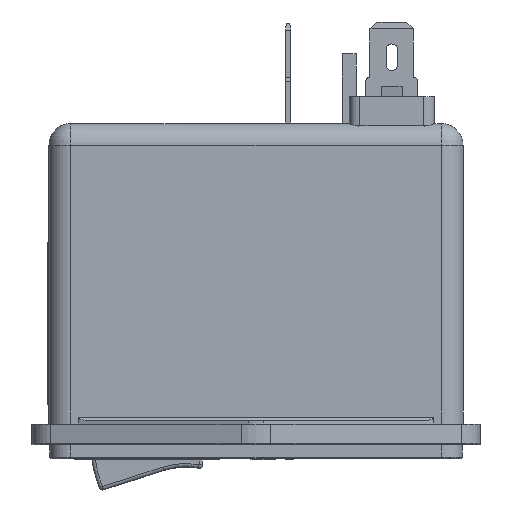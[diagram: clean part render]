
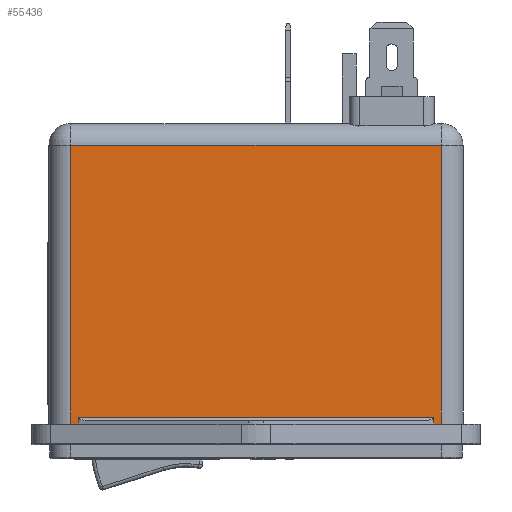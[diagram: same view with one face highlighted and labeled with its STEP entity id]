
A CAD part, left-side view. The second image highlights one B-rep face of the part: STEP entity #55436.
In plain terms, the highlighted planar face has unit normal (-1, 0, 0).
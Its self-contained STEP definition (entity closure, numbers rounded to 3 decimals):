
#54662=CARTESIAN_POINT('',(-14.25,-8.775,24.375));
#54663=VERTEX_POINT('',#54662);
#54671=CARTESIAN_POINT('',(-14.25,-7.655,24.375));
#54672=VERTEX_POINT('',#54671);
#54673=CARTESIAN_POINT('',(-14.25,-8.775,24.375));
#54674=DIRECTION('',(0.0,1.0,0.0));
#54675=VECTOR('',#54674,1.12);
#54676=LINE('',#54673,#54675);
#54677=EDGE_CURVE('',#54663,#54672,#54676,.T.);
#54695=CARTESIAN_POINT('',(-14.25,43.755,24.375));
#54696=VERTEX_POINT('',#54695);
#54703=CARTESIAN_POINT('',(-14.25,44.875,24.375));
#54704=VERTEX_POINT('',#54703);
#54705=CARTESIAN_POINT('',(-14.25,43.755,24.375));
#54706=DIRECTION('',(0.0,1.0,0.0));
#54707=VECTOR('',#54706,1.12);
#54708=LINE('',#54705,#54707);
#54709=EDGE_CURVE('',#54696,#54704,#54708,.T.);
#55142=CARTESIAN_POINT('',(-14.25,43.755,25.375));
#55143=VERTEX_POINT('',#55142);
#55161=CARTESIAN_POINT('',(-14.25,-7.655,25.375));
#55162=VERTEX_POINT('',#55161);
#55170=CARTESIAN_POINT('',(-14.25,-7.655,25.375));
#55171=DIRECTION('',(0.0,1.0,0.0));
#55172=VECTOR('',#55171,51.411);
#55173=LINE('',#55170,#55172);
#55174=EDGE_CURVE('',#55162,#55143,#55173,.T.);
#55336=CARTESIAN_POINT('',(-14.25,-7.655,25.375));
#55337=DIRECTION('',(0.0,0.0,-1.0));
#55338=VECTOR('',#55337,1.0);
#55339=LINE('',#55336,#55338);
#55340=EDGE_CURVE('',#55162,#54672,#55339,.T.);
#55378=CARTESIAN_POINT('',(-14.25,43.755,24.375));
#55379=DIRECTION('',(0.0,0.0,1.0));
#55380=VECTOR('',#55379,1.0);
#55381=LINE('',#55378,#55380);
#55382=EDGE_CURVE('',#54696,#55143,#55381,.T.);
#55402=CARTESIAN_POINT('',(-14.25,-11.925,24.375));
#55403=DIRECTION('',(-1.0,0.0,0.0));
#55404=DIRECTION('',(0.0,0.0,1.0));
#55405=AXIS2_PLACEMENT_3D('',#55402,#55403,#55404);
#55406=PLANE('',#55405);
#55407=ORIENTED_EDGE('',*,*,#55340,.T.);
#55408=ORIENTED_EDGE('',*,*,#54677,.F.);
#55409=CARTESIAN_POINT('',(-14.25,-8.775,64.725));
#55410=VERTEX_POINT('',#55409);
#55411=CARTESIAN_POINT('',(-14.25,-8.775,64.725));
#55412=DIRECTION('',(0.0,0.0,-1.0));
#55413=VECTOR('',#55412,40.35);
#55414=LINE('',#55411,#55413);
#55415=EDGE_CURVE('',#55410,#54663,#55414,.T.);
#55416=ORIENTED_EDGE('',*,*,#55415,.F.);
#55417=CARTESIAN_POINT('',(-14.25,44.875,64.725));
#55418=VERTEX_POINT('',#55417);
#55419=CARTESIAN_POINT('',(-14.25,44.875,64.725));
#55420=DIRECTION('',(0.0,-1.0,0.0));
#55421=VECTOR('',#55420,53.65);
#55422=LINE('',#55419,#55421);
#55423=EDGE_CURVE('',#55418,#55410,#55422,.T.);
#55424=ORIENTED_EDGE('',*,*,#55423,.F.);
#55425=CARTESIAN_POINT('',(-14.25,44.875,24.375));
#55426=DIRECTION('',(0.0,0.0,1.0));
#55427=VECTOR('',#55426,40.35);
#55428=LINE('',#55425,#55427);
#55429=EDGE_CURVE('',#54704,#55418,#55428,.T.);
#55430=ORIENTED_EDGE('',*,*,#55429,.F.);
#55431=ORIENTED_EDGE('',*,*,#54709,.F.);
#55432=ORIENTED_EDGE('',*,*,#55382,.T.);
#55433=ORIENTED_EDGE('',*,*,#55174,.F.);
#55434=EDGE_LOOP('',(#55407,#55408,#55416,#55424,#55430,#55431,#55432,#55433));
#55435=FACE_OUTER_BOUND('',#55434,.T.);
#55436=ADVANCED_FACE('',(#55435),#55406,.T.);
